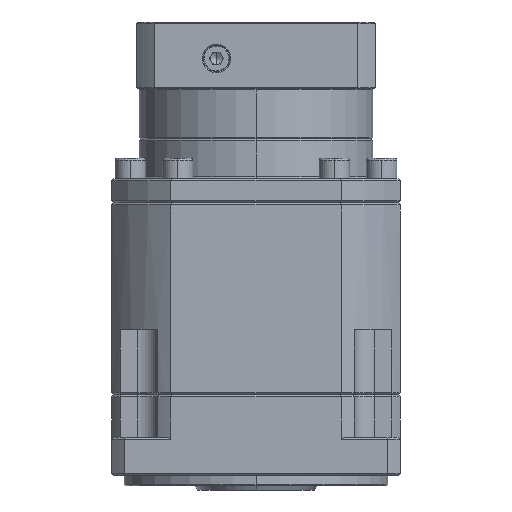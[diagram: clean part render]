
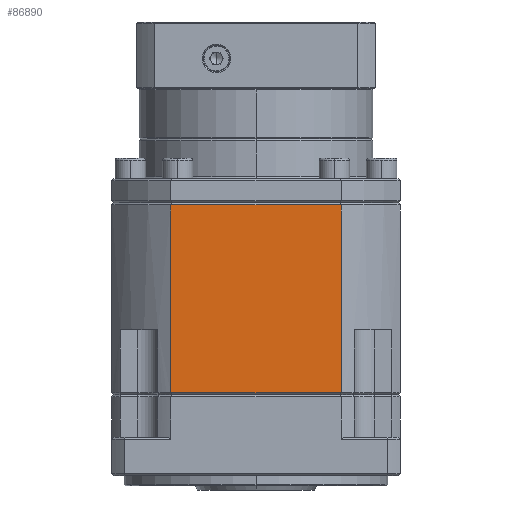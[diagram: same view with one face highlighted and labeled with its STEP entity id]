
A CAD part, left-side view. The second image highlights one B-rep face of the part: STEP entity #86890.
In plain terms, the highlighted planar face has unit normal (-1, 0, 0).
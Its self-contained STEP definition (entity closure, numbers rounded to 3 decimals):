
#1454 = CARTESIAN_POINT ( 'NONE',  ( -245.735, 118.708, -43.8 ) ) ;
#11294 = CARTESIAN_POINT ( 'NONE',  ( -245.735, 5.693, -137.3 ) ) ;
#13486 = EDGE_CURVE ( 'NONE', #97825, #137779, #127662, .T. ) ;
#14883 = CARTESIAN_POINT ( 'NONE',  ( -245.735, 76.693, -44.8 ) ) ;
#15763 = VERTEX_POINT ( 'NONE', #55684 ) ;
#32548 = FACE_OUTER_BOUND ( 'NONE', #72965, .T. ) ;
#35099 = LINE ( 'NONE', #11294, #132721 ) ;
#39465 = VECTOR ( 'NONE', #67850, 1000. ) ;
#42660 = DIRECTION ( 'NONE',  ( 0., 0., 1. ) ) ;
#55684 = CARTESIAN_POINT ( 'NONE',  ( -245.735, 118.708, -44.8 ) ) ;
#55857 = PLANE ( 'NONE',  #61528 ) ;
#55883 = EDGE_CURVE ( 'NONE', #15763, #97825, #68035, .T. ) ;
#61528 = AXIS2_PLACEMENT_3D ( 'NONE', #130256, #131211, #77039 ) ;
#65005 = DIRECTION ( 'NONE',  ( 0., 0., -1. ) ) ;
#67850 = DIRECTION ( 'NONE',  ( 0., -1., 0. ) ) ;
#68035 = LINE ( 'NONE', #14883, #39465 ) ;
#72965 = EDGE_LOOP ( 'NONE', ( #132967, #75636, #125168, #90199 ) ) ;
#75636 = ORIENTED_EDGE ( 'NONE', *, *, #109348, .F. ) ;
#75979 = DIRECTION ( 'NONE',  ( 0., 1., 0. ) ) ;
#77039 = DIRECTION ( 'NONE',  ( 0., 0., -1. ) ) ;
#85614 = CARTESIAN_POINT ( 'NONE',  ( -245.735, 118.708, -137.3 ) ) ;
#86890 = ADVANCED_FACE ( 'NONE', ( #32548 ), #55857, .F. ) ;
#90199 = ORIENTED_EDGE ( 'NONE', *, *, #55883, .F. ) ;
#91267 = CARTESIAN_POINT ( 'NONE',  ( -245.735, 34.678, -137.3 ) ) ;
#93201 = EDGE_CURVE ( 'NONE', #94177, #15763, #109798, .T. ) ;
#94177 = VERTEX_POINT ( 'NONE', #85614 ) ;
#95694 = VECTOR ( 'NONE', #65005, 1000. ) ;
#97062 = CARTESIAN_POINT ( 'NONE',  ( -245.735, 34.678, -43.8 ) ) ;
#97825 = VERTEX_POINT ( 'NONE', #102200 ) ;
#102200 = CARTESIAN_POINT ( 'NONE',  ( -245.735, 34.678, -44.8 ) ) ;
#109348 = EDGE_CURVE ( 'NONE', #137779, #94177, #35099, .T. ) ;
#109798 = LINE ( 'NONE', #1454, #128283 ) ;
#125168 = ORIENTED_EDGE ( 'NONE', *, *, #13486, .F. ) ;
#127662 = LINE ( 'NONE', #97062, #95694 ) ;
#128283 = VECTOR ( 'NONE', #42660, 1000. ) ;
#130256 = CARTESIAN_POINT ( 'NONE',  ( -245.735, 5.693, -43.8 ) ) ;
#131211 = DIRECTION ( 'NONE',  ( 1., 0., 0. ) ) ;
#132721 = VECTOR ( 'NONE', #75979, 1000. ) ;
#132967 = ORIENTED_EDGE ( 'NONE', *, *, #93201, .F. ) ;
#137779 = VERTEX_POINT ( 'NONE', #91267 ) ;
